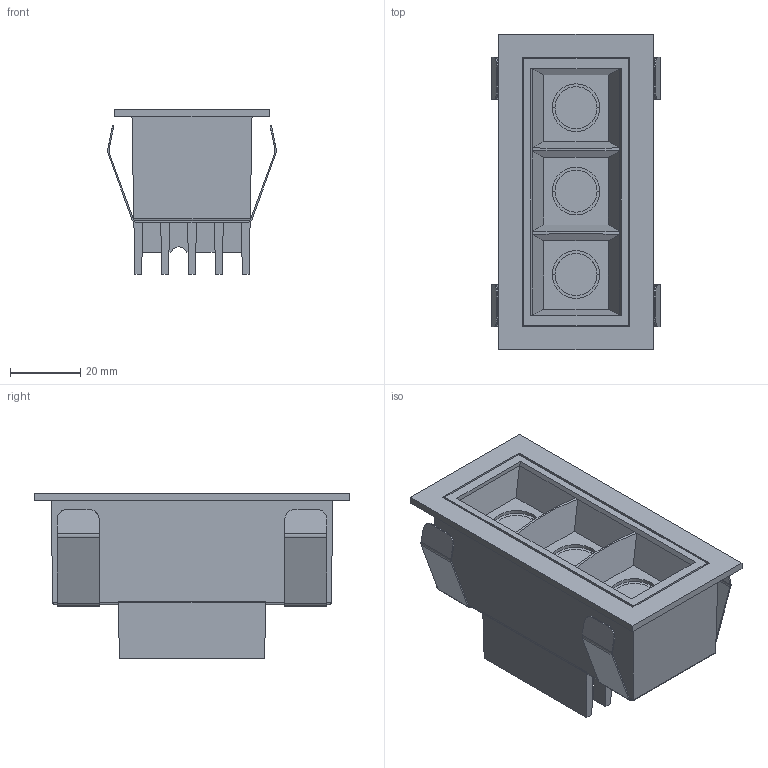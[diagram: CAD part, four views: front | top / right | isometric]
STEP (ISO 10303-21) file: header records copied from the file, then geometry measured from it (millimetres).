
FILE_DESCRIPTION(/* description */ (''),/* implementation_level */ '2;1');
FILE_NAME(/* name */ 'C:\Users\FrancoSartori\Documents\FARO\01_En Proceso\0000_2022\000_PRO\00_TROOP\03_Publicación\43701.stp',/* time_stamp */ '2022-06-15T12:32:46+02:00',/* author */ ('FrancoSartori'),/* organization */ (''),/* preprocessor_version */ 'ST-DEVELOPER v19',/* originating_system */ 'AutoCAD Mechanical',/* authorisation */ '');
FILE_SCHEMA (('AUTOMOTIVE_DESIGN { 1 0 10303 214 3 1 1 }'));
Length unit declared in the file: millimetre
Products named in the file (2): Product; 43701_ - GRUND-444466-View 1
Assembly tree (1 placements, depth 2):
  Product
    43701_ - GRUND-444466-View 1
Bounding box: 48.16 x 90 x 47 mm (x, y, z)
Volume: 53894.9 mm3; surface area: 48020.9 mm2
Topology: 16 solids, 16 shells, 258 faces, 614 edges, 388 vertices
Faces by surface type: plane 183, cylinder 61, bspline 12, cone 2
Entity records: 7586 total; most frequent: CARTESIAN_POINT 1484, DIRECTION 1234, ORIENTED_EDGE 1228, EDGE_CURVE 614, LINE 468, VECTOR 468, VERTEX_POINT 388, AXIS2_PLACEMENT_3D 383
